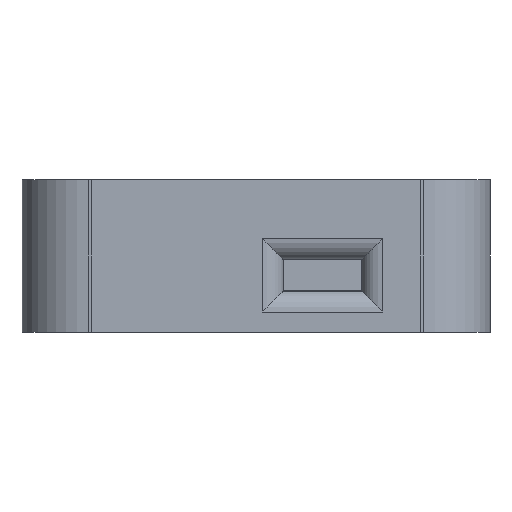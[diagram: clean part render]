
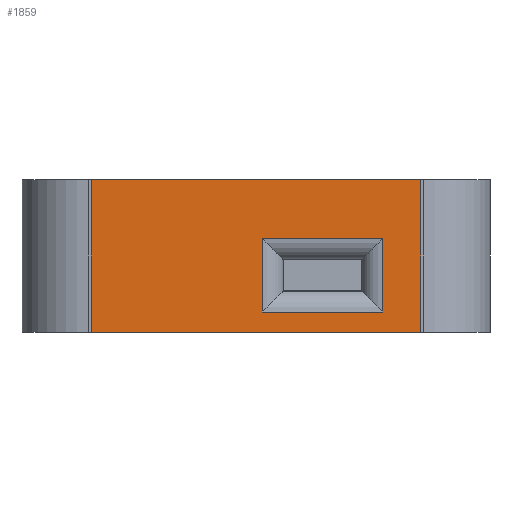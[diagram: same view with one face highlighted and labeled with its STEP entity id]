
A CAD part, front view. The second image highlights one B-rep face of the part: STEP entity #1859.
In plain terms, the highlighted planar face has unit normal (0, -1, 0).
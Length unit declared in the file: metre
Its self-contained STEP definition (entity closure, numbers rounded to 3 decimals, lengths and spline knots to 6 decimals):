
#310=ORIENTED_EDGE('',*,*,#805,.T.);
#311=ORIENTED_EDGE('',*,*,#806,.T.);
#312=ORIENTED_EDGE('',*,*,#807,.T.);
#313=ORIENTED_EDGE('',*,*,#808,.T.);
#314=ORIENTED_EDGE('',*,*,#809,.F.);
#315=ORIENTED_EDGE('',*,*,#810,.T.);
#316=ORIENTED_EDGE('',*,*,#803,.T.);
#317=ORIENTED_EDGE('',*,*,#811,.F.);
#803=EDGE_CURVE('',#1047,#1046,#1232,.T.);
#805=EDGE_CURVE('',#1048,#1049,#1234,.T.);
#806=EDGE_CURVE('',#1049,#1050,#1235,.T.);
#807=EDGE_CURVE('',#1050,#1051,#1236,.F.);
#808=EDGE_CURVE('',#1051,#1048,#1237,.F.);
#809=EDGE_CURVE('',#1052,#1053,#1238,.T.);
#810=EDGE_CURVE('',#1052,#1047,#1239,.T.);
#811=EDGE_CURVE('',#1053,#1046,#1240,.T.);
#1046=VERTEX_POINT('',#2932);
#1047=VERTEX_POINT('',#2934);
#1048=VERTEX_POINT('',#2938);
#1049=VERTEX_POINT('',#2939);
#1050=VERTEX_POINT('',#2941);
#1051=VERTEX_POINT('',#2943);
#1052=VERTEX_POINT('',#2946);
#1053=VERTEX_POINT('',#2947);
#1232=LINE('',#2933,#1444);
#1234=LINE('',#2937,#1446);
#1235=LINE('',#2940,#1447);
#1236=LINE('',#2942,#1448);
#1237=LINE('',#2944,#1449);
#1238=LINE('',#2945,#1450);
#1239=LINE('',#2948,#1451);
#1240=LINE('',#2949,#1452);
#1444=VECTOR('',#2339,1.);
#1446=VECTOR('',#2343,1.);
#1447=VECTOR('',#2344,1.);
#1448=VECTOR('',#2345,1.);
#1449=VECTOR('',#2346,1.);
#1450=VECTOR('',#2347,1.);
#1451=VECTOR('',#2348,1.);
#1452=VECTOR('',#2349,1.);
#1565=EDGE_LOOP('',(#310,#311,#312,#313));
#1566=EDGE_LOOP('',(#314,#315,#316,#317));
#1683=FACE_BOUND('',#1565,.T.);
#1684=FACE_BOUND('',#1566,.T.);
#1789=PLANE('',#1999);
#1859=ADVANCED_FACE('',(#1683,#1684),#1789,.F.);
#1999=AXIS2_PLACEMENT_3D('',#2936,#2341,#2342);
#2339=DIRECTION('',(0.,0.,-1.));
#2341=DIRECTION('',(0.,1.,0.));
#2342=DIRECTION('',(0.,0.,1.));
#2343=DIRECTION('',(1.,0.,0.));
#2344=DIRECTION('',(0.,0.,-1.));
#2345=DIRECTION('',(1.,0.,0.));
#2346=DIRECTION('',(0.,0.,-1.));
#2347=DIRECTION('',(0.,0.,-1.));
#2348=DIRECTION('',(-1.,0.,0.));
#2349=DIRECTION('',(-1.,0.,0.));
#2932=CARTESIAN_POINT('',(0.13999,-0.132,-0.003175));
#2933=CARTESIAN_POINT('',(0.13999,-0.132,0.00166));
#2934=CARTESIAN_POINT('',(0.13999,-0.132,0.01442));
#2936=CARTESIAN_POINT('',(0.159,-0.132,0.00166));
#2937=CARTESIAN_POINT('',(0.159,-0.132,0.00766));
#2938=CARTESIAN_POINT('',(0.15971,-0.132,0.00766));
#2939=CARTESIAN_POINT('',(0.17365,-0.132,0.00766));
#2940=CARTESIAN_POINT('',(0.17365,-0.132,0.00166));
#2941=CARTESIAN_POINT('',(0.17365,-0.132,-0.00084));
#2942=CARTESIAN_POINT('',(0.16221,-0.132,-0.00084));
#2943=CARTESIAN_POINT('',(0.15971,-0.132,-0.00084));
#2944=CARTESIAN_POINT('',(0.15971,-0.132,0.00516));
#2945=CARTESIAN_POINT('',(0.17801,-0.132,0.00166));
#2946=CARTESIAN_POINT('',(0.17801,-0.132,0.01442));
#2947=CARTESIAN_POINT('',(0.17801,-0.132,-0.003175));
#2948=CARTESIAN_POINT('',(0.17458,-0.132,0.01442));
#2949=CARTESIAN_POINT('',(0.159,-0.132,-0.003175));
